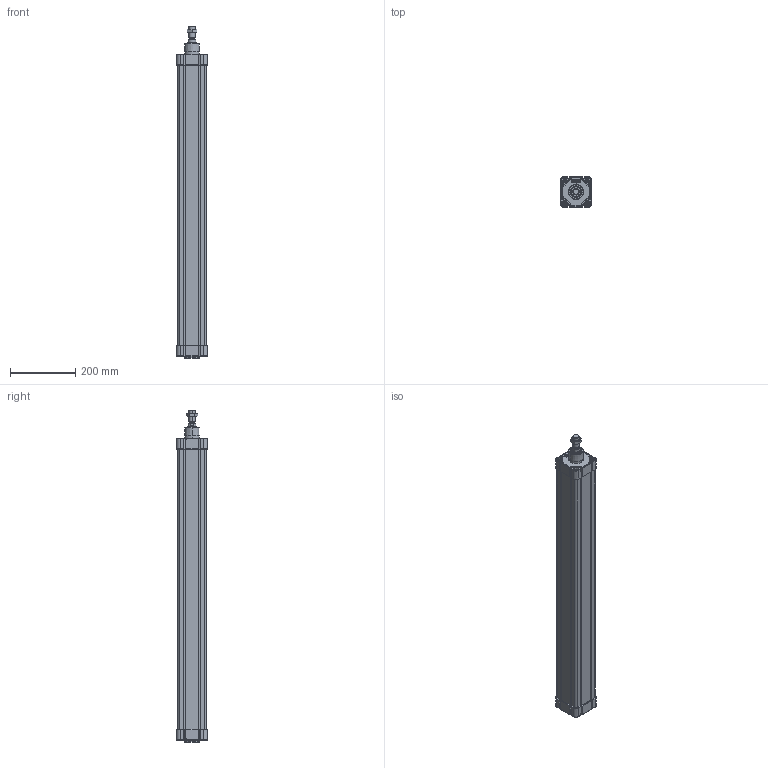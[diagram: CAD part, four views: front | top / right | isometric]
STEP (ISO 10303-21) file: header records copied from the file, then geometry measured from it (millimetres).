
FILE_DESCRIPTION (( 'STEP AP214' ), '1' );
FILE_NAME ('N11M20800800.STEP', '2021-09-28T10:47:03', ( '' ), ( '' ), 'SwSTEP 2.0', 'SolidWorks 2016', '' );
FILE_SCHEMA (( 'AUTOMOTIVE_DESIGN' ));
Length unit declared in the file: millimetre
Products named in the file (7): 000.514.7_000.514.0800; TP Ø80 ISO 15552 WEB; Pistone Ø80 ISO 15552; N11M20800800; 21.753.0; 21.E01.0000_21.E01.0800; TA Ø80 ISO 15552 WEB
Assembly tree (6 placements, depth 2):
  N11M20800800
    TP Ø80 ISO 15552 WEB
    TA Ø80 ISO 15552 WEB
    Pistone Ø80 ISO 15552
    21.E01.0000_21.E01.0800
    000.514.7_000.514.0800
    21.753.0
Bounding box: 93.95 x 93.97 x 1019 mm (x, y, z)
Volume: 2859778 mm3; surface area: 968758.8 mm2
Topology: 17 solids, 18 shells, 2101 faces, 5387 edges, 3419 vertices
Faces by surface type: plane 892, cylinder 644, cone 262, bspline 214, torus 85, sphere 4
Entity records: 91017 total; most frequent: CARTESIAN_POINT 20496, ORIENTED_EDGE 10730, DIRECTION 9855, EDGE_CURVE 5365, AXIS2_PLACEMENT_3D 3478, VERTEX_POINT 3419, LINE 2899, VECTOR 2899
